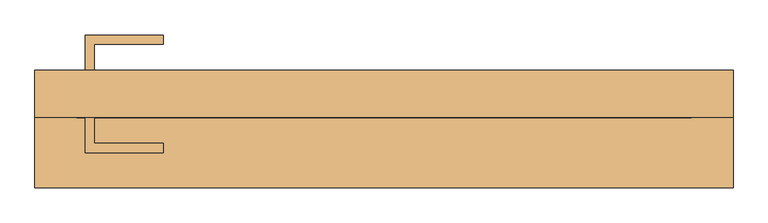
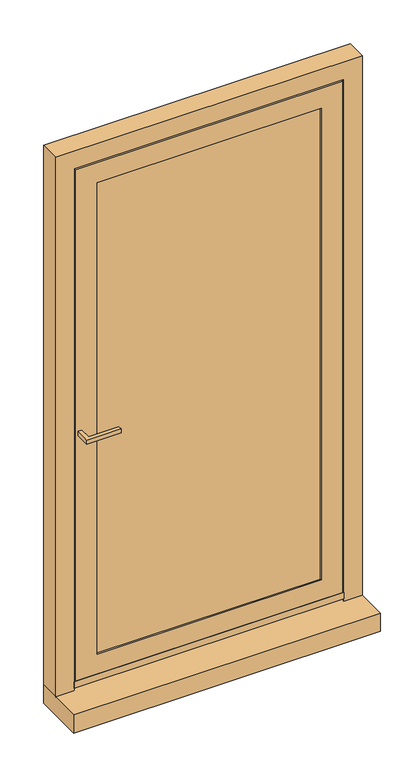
"""IFC4 building model written with IfcOpenShell, lengths in millimetres: door geometry, Reynaers_MasterLine 8_Door_Miter_Inward Opening_Single Vent : Reynaers_MasterLine 8_Door_Miter_Inward Opening_Single Vent."""

from ifc_helpers import new_model, si_unit, frame, origin, place, context, project, spatial, polyline, outline, extrude, faceted_brep, source, transform, mapped, element, save


def door_43a200b4(model_context):
    return source(origin(), model_context, "Body", "SolidModel", [
        extrude(outline(polyline([(-488.0, -131.2), (-473.0, -131.2), (-473.0, -173.7), (-360.5, -173.7), (-360.5, -188.7), (-488.0, -188.7), (-488.0, -131.2)])), frame((0.0, 0.0, 1000.0), z_axis=(0.0, 0.0, 1.0), x_axis=(1.0, 0.0, 0.0)), (0.0, 0.0, 1.0), 15.0),
        extrude(outline(polyline([(-488.0, -54.2), (-488.0, 3.3), (-360.5, 3.3), (-360.5, -11.7), (-473.0, -11.7), (-473.0, -54.2), (-488.0, -54.2)])), frame((0.0, 0.0, 1000.0), z_axis=(0.0, 0.0, 1.0), x_axis=(1.0, 0.0, 0.0)), (0.0, 0.0, 1.0), 15.0),
        extrude(outline(polyline([(-570.0, -54.2), (570.0, -54.2), (570.0, -246.2), (-570.0, -246.2), (-570.0, -54.2)])), frame((0.0, 0.0, -71.5), z_axis=(0.0, 0.0, 1.0), x_axis=(1.0, 0.0, 0.0)), (0.0, 0.0, 1.0), 72.5),
        extrude(outline(polyline([(-501.5, -71.2), (501.5, -71.2), (501.5, -91.2), (-501.5, -91.2), (-501.5, -71.2)])), frame((0.0, 0.0, 1.0), z_axis=(0.0, 0.0, 1.0), x_axis=(1.0, 0.0, 0.0)), (0.0, 0.0, 1.0), 25.0),
        extrude(outline(polyline([(-501.5, -127.4), (501.5, -127.4), (501.5, -131.2), (-501.5, -131.2), (-501.5, -127.4)])), frame((0.0, 0.0, 11.0), z_axis=(0.0, 0.0, 1.0), x_axis=(1.0, 0.0, 0.0)), (0.0, 0.0, 1.0), 26.0),
        extrude(outline(polyline([(1994.0, 444.0), (1994.0, -444.0), (88.5, -444.0), (88.5, 444.0), (1994.0, 444.0)]), holes=[polyline([(1969.0, -419.0), (1969.0, 419.0), (113.5, 419.0), (113.5, -419.0), (1969.0, -419.0)])]), frame((0.0, -92.2, 0.0), z_axis=(0.0, 1.0, 0.0), x_axis=(0.0, 0.0, 1.0)), (0.0, 0.0, 1.0), 38.0),
        faceted_brep([(-501.5, -127.4, 0.0), (-501.5, -131.2, 0.0), (-570.0, -131.2, 0.0), (-570.0, -54.2, 0.0), (-527.5, -54.2, 0.0), (-527.5, -63.0, 0.0), (-516.5, -63.0, 0.0), (-516.5, -127.4, 0.0), (-516.5, -127.4, 2066.5), (516.5, -127.4, 2066.5), (516.5, -127.4, 0.0), (501.5, -127.4, 0.0), (501.5, -127.4, 2051.5), (-501.5, -127.4, 2051.5), (-570.0, -131.2, 2120.0), (-570.0, -54.2, 2120.0), (-501.5, -131.2, 2051.5), (501.5, -131.2, 2051.5), (501.5, -131.2, 0.0), (570.0, -131.2, 0.0), (570.0, -131.2, 2120.0), (570.0, -54.2, 2120.0), (516.5, -63.0, 0.0), (527.5, -63.0, 0.0), (527.5, -54.2, 0.0), (570.0, -54.2, 0.0), (-516.5, -63.0, 2066.5), (527.5, -54.2, 2077.5), (-527.5, -54.2, 2077.5), (516.5, -63.0, 2066.5), (-527.5, -63.0, 2077.5), (527.5, -63.0, 2077.5)], [[[0, 1, 2, 3, 4, 5, 6, 7]], [[7, 8, 9, 10, 11, 12, 13, 0]], [[2, 14, 15, 3]], [[1, 16, 17, 18, 19, 20, 14, 2]], [[0, 13, 16, 1]], [[14, 20, 21, 15]], [[13, 12, 17, 16]], [[11, 10, 22, 23, 24, 25, 19, 18]], [[20, 19, 25, 21]], [[12, 11, 18, 17]], [[6, 26, 8, 7]], [[3, 15, 21, 25, 24, 27, 28, 4]], [[26, 29, 9, 8]], [[29, 22, 10, 9]], [[5, 30, 31, 23, 22, 29, 26, 6]], [[4, 28, 30, 5]], [[28, 27, 31, 30]], [[27, 24, 23, 31]]]),
        faceted_brep([(-444.0, -54.2, 1994.0), (444.0, -54.2, 1994.0), (444.0, -127.2, 1994.0), (-444.0, -127.2, 1994.0), (-521.5, -58.0, 2071.5), (521.5, -58.0, 2071.5), (521.5, -54.2, 2071.5), (-521.5, -54.2, 2071.5), (444.0, -54.2, 88.5), (444.0, -127.2, 88.5), (521.5, -58.0, 11.0), (521.5, -54.2, 11.0), (-444.0, -54.2, 88.5), (-444.0, -127.2, 88.5), (-521.5, -58.0, 11.0), (-521.5, -54.2, 11.0), (-506.5, -58.0, 2056.5), (506.5, -58.0, 2056.5), (506.5, -58.0, 26.0), (-506.5, -58.0, 26.0), (-506.5, -122.4, 2056.5), (506.5, -122.4, 2056.5), (-495.5, -131.2, 2045.5), (495.5, -131.2, 2045.5), (495.5, -122.4, 2045.5), (-495.5, -122.4, 2045.5), (-417.0, -127.2, 1967.0), (417.0, -127.2, 1967.0), (417.0, -131.2, 1967.0), (-417.0, -131.2, 1967.0), (506.5, -122.4, 26.0), (495.5, -131.2, 37.0), (495.5, -122.4, 37.0), (417.0, -127.2, 115.5), (417.0, -131.2, 115.5), (-506.5, -122.4, 26.0), (-495.5, -131.2, 37.0), (-495.5, -122.4, 37.0), (-417.0, -127.2, 115.5), (-417.0, -131.2, 115.5)], [[[0, 1, 2, 3]], [[4, 5, 6, 7]], [[1, 8, 9, 2]], [[5, 10, 11, 6]], [[8, 12, 13, 9]], [[10, 14, 15, 11]], [[12, 0, 3, 13]], [[7, 6, 11, 15], [1, 0, 12, 8]], [[14, 4, 7, 15]], [[5, 4, 14, 10], [16, 17, 18, 19]], [[20, 21, 17, 16]], [[22, 23, 24, 25]], [[26, 27, 28, 29]], [[21, 30, 18, 17]], [[23, 31, 32, 24]], [[27, 33, 34, 28]], [[30, 35, 19, 18]], [[31, 36, 37, 32]], [[33, 38, 39, 34]], [[35, 20, 16, 19]], [[21, 20, 35, 30], [25, 24, 32, 37]], [[36, 22, 25, 37]], [[23, 22, 36, 31], [29, 28, 34, 39]], [[38, 26, 29, 39]], [[3, 2, 9, 13], [27, 26, 38, 33]]]),
        extrude(outline(polyline([(436.0, -96.2), (436.0, -123.2), (-436.0, -123.2), (-436.0, -96.2), (436.0, -96.2)])), frame((0.0, 0.0, 96.5), z_axis=(0.0, 0.0, 1.0), x_axis=(1.0, 0.0, 0.0)), (0.0, 0.0, 1.0), 1889.5),
    ])


if __name__ == "__main__":
    model = new_model("IFC4")
    model_context = context("Model", 3, world=origin())
    ifc_project = project(units=[si_unit("LENGTHUNIT", "METRE", prefix="MILLI")], contexts=[model_context])
    site = spatial("IfcSite", under=ifc_project)
    building = spatial("IfcBuilding", under=site)
    placement = place(None, origin())
    door_shape = door_43a200b4(model_context)
    element("IfcDoor", 1, ObjectType="Reynaers_MasterLine 8_Door_Miter_Inward Opening_Single Vent : Reynaers_MasterLine 8_Door_Miter_Inward Opening_Single Vent", at=placement, inside=building, context=model_context, shape_type="MappedRepresentation", body=[
        mapped(door_shape, transform((0.0, 0.0, 0.0), x_axis=(1.0, 0.0, 0.0), y_axis=(0.0, 1.0, 0.0), z_axis=(0.0, 0.0, 1.0))),
    ])
    save(model, "model.ifc")
